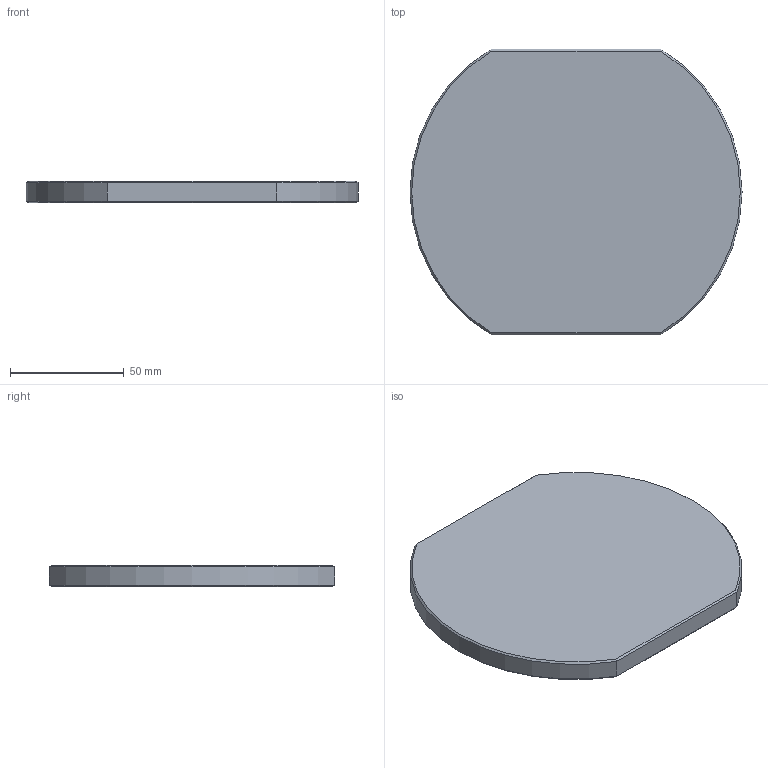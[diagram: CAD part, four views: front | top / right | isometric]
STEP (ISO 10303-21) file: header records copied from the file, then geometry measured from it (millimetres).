
FILE_DESCRIPTION((''),'2;1');
FILE_NAME('RMC-8004','2007-09-26T',('glafferty'),('Pleasant Precision, Inc. (419)675-0556'),'PRO/ENGINEER BY PARAMETRIC TECHNOLOGY CORPORATION, 2006080','PRO/ENGINEER BY PARAMETRIC TECHNOLOGY CORPORATION, 2006080','');
FILE_SCHEMA(('CONFIG_CONTROL_DESIGN'));
Length unit declared in the file: inch
Products named in the file (1): RMC-8004
Bounding box: 146.05 x 125.48 x 9.53 mm (x, y, z)
Volume: 149395.3 mm3; surface area: 35319.6 mm2
Topology: 1 solids, 1 shells, 14 faces, 28 edges, 16 vertices
Faces by surface type: plane 8, cone 4, cylinder 2
Entity records: 420 total; most frequent: CARTESIAN_POINT 98, DIRECTION 56, ORIENTED_EDGE 56, EDGE_CURVE 28, AXIS2_PLACEMENT_3D 22, VERTEX_POINT 16, EDGE_LOOP 14, FACE_OUTER_BOUND 14
